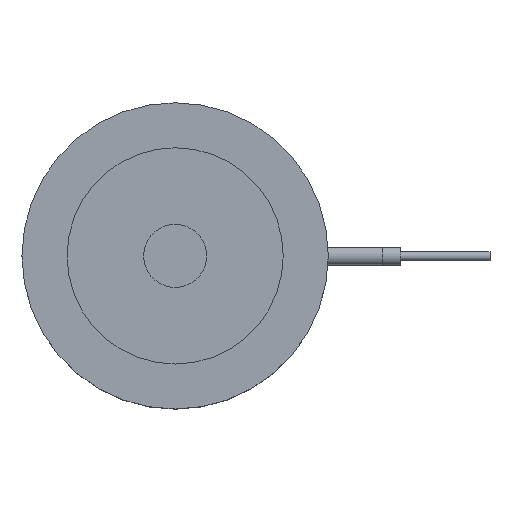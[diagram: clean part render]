
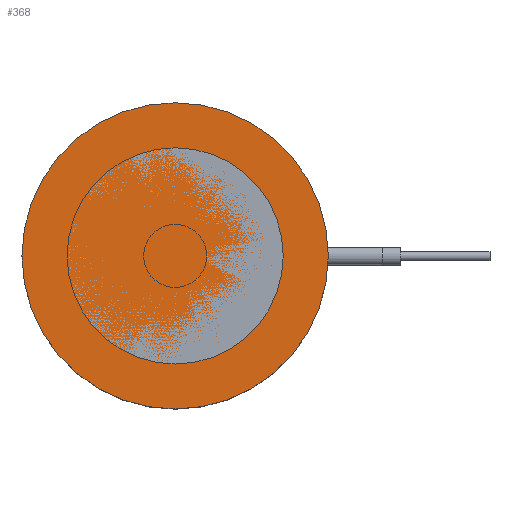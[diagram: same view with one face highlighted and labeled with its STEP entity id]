
A CAD part, top view. The second image highlights one B-rep face of the part: STEP entity #368.
In plain terms, the highlighted planar face has unit normal (0, 0, 1).
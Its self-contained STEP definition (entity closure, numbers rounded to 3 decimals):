
#220=PLANE('',#1293);
#276=FACE_OUTER_BOUND('',#613,.T.);
#368=ADVANCED_FACE('',(#276),#220,.F.);
#613=EDGE_LOOP('',(#841));
#841=ORIENTED_EDGE('',*,*,#1056,.F.);
#941=VERTEX_POINT('',#2065);
#1056=EDGE_CURVE('',#941,#941,#1134,.T.);
#1134=CIRCLE('',#1292,17.);
#1292=AXIS2_PLACEMENT_3D('',#2064,#1637,#1638);
#1293=AXIS2_PLACEMENT_3D('',#2066,#1639,#1640);
#1637=DIRECTION('',(0.,0.,-1.));
#1638=DIRECTION('',(-1.,0.,0.));
#1639=DIRECTION('',(0.,0.,-1.));
#1640=DIRECTION('',(-1.,0.,0.));
#2064=CARTESIAN_POINT('',(0.,0.,0.));
#2065=CARTESIAN_POINT('',(-17.,0.,0.));
#2066=CARTESIAN_POINT('',(0.,0.,0.));
